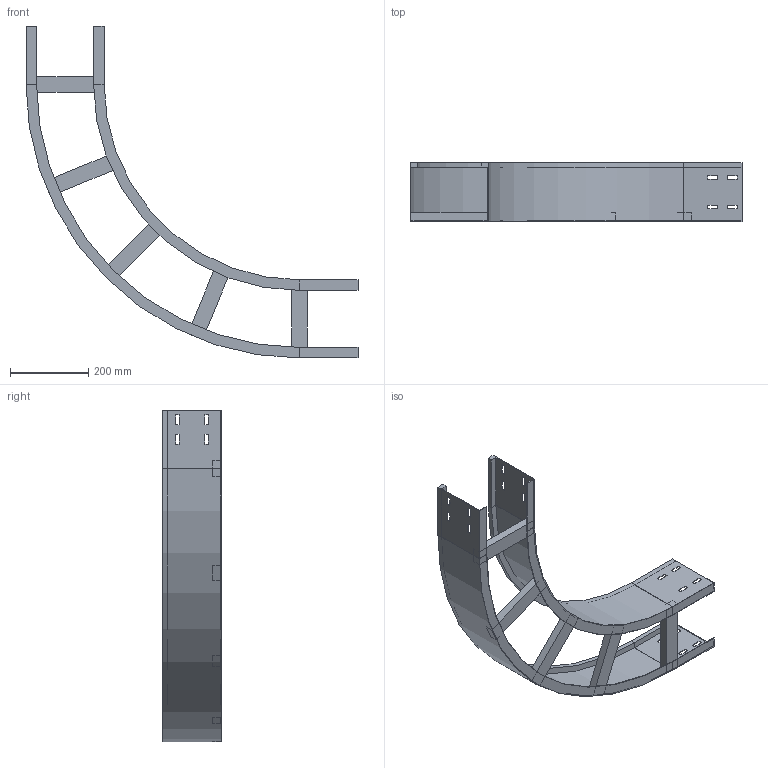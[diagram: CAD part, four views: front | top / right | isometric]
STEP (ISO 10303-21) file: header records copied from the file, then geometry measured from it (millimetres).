
FILE_DESCRIPTION (( 'STEP AP214' ), '1' );
FILE_NAME ('10J5F200.step', '2025-02-21T16:25:06', ( '' ), ( '' ), 'SwSTEP 2.0', 'SolidWorks 2023', '' );
FILE_SCHEMA (( 'AUTOMOTIVE_DESIGN' ));
Length unit declared in the file: millimetre
Products named in the file (4): LONGH.INTERNO 90°_H150_R500; LONGH.ESTERNO 90°_H150_R500+200; TRAVERSINO_200; 10J5F200
Assembly tree (7 placements, depth 2):
  10J5F200
    LONGH.INTERNO 90°_H150_R500
    LONGH.ESTERNO 90°_H150_R500+200
    TRAVERSINO_200  x5
Bounding box: 850 x 150 x 850 mm (x, y, z)
Volume: 2133445.9 mm3; surface area: 1083016.9 mm2
Topology: 7 solids, 7 shells, 146 faces, 364 edges, 232 vertices
Faces by surface type: plane 138, cylinder 8
Entity records: 3837 total; most frequent: CARTESIAN_POINT 648, ORIENTED_EDGE 632, DIRECTION 596, EDGE_CURVE 316, LINE 300, VECTOR 300, VERTEX_POINT 200, EDGE_LOOP 154
